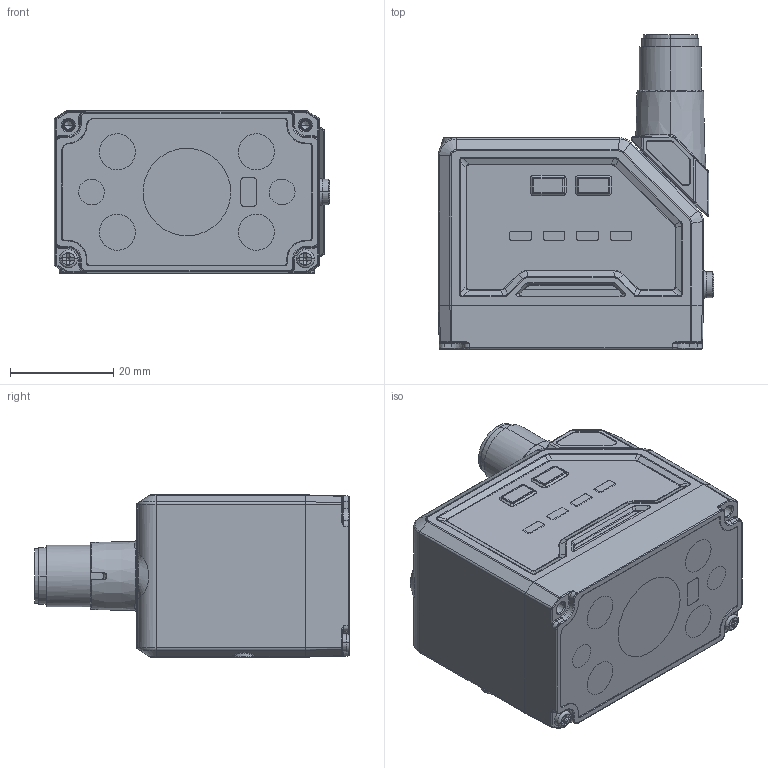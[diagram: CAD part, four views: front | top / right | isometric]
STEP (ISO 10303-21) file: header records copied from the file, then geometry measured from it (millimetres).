
FILE_DESCRIPTION((''),'2;1');
FILE_NAME('PRT0001','2025-06-13T14:36:49',('yangxiaobing6'),(''),'CREO PARAMETRIC BY PTC INC, 2020044','CREO PARAMETRIC BY PTC INC, 2020044','');
FILE_SCHEMA(('CONFIG_CONTROL_DESIGN','SHAPE_APPEARANCE_LAYERS_GROUPS'));
Products named in the file (1): PRT0001
Bounding box: 53.5 x 61.04 x 31.5 mm (x, y, z)
Volume: 63638.8 mm3; surface area: 23107.1 mm2
Topology: 1 solids, 42 shells, 2353 faces, 5906 edges, 3692 vertices
Faces by surface type: plane 789, cylinder 776, cone 318, bspline 239, torus 198, extrusion 21, sphere 12
Entity records: 92045 total; most frequent: CARTESIAN_POINT 34202, ORIENTED_EDGE 11462, DIRECTION 11008, EDGE_CURVE 5857, AXIS2_PLACEMENT_3D 4148, VERTEX_POINT 3690, VECTOR 2712, LINE 2691
